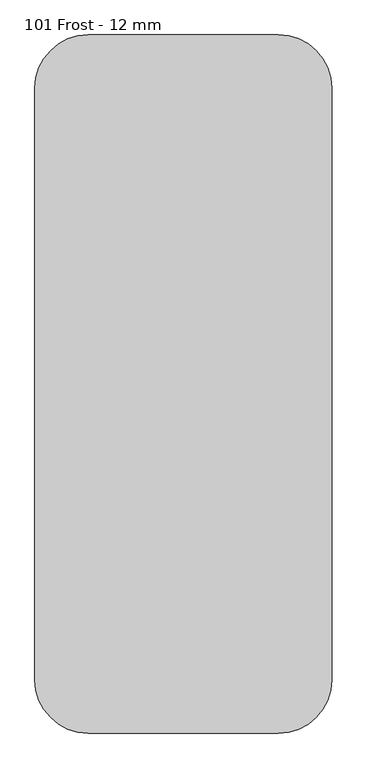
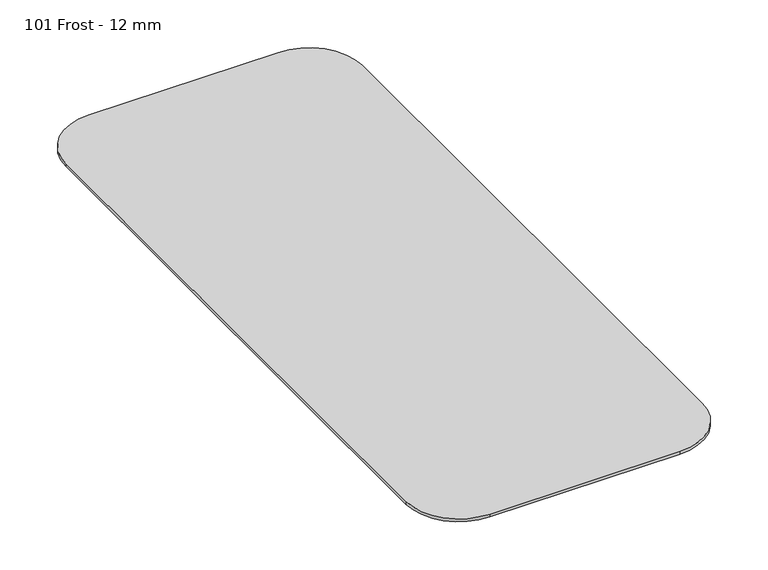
"""IFC4 building model written with IfcOpenShell, lengths in millimetres: proxy geometry, Wall-Panel-Kirei_USA-EchoScreen-Fizz_Screen : 101 Frost - 12 mm."""

from ifc_helpers import new_model, si_unit, point, frame_2d, origin, origin_with_axes, place, context, project, spatial, polyline, circle_curve, trimmed, segment, composite_curve, outline, extrude, source, transform, mapped, element, save


def proxy_101_frost_12_mm_981fdf22(model_context):
    return source(origin(), model_context, "Body", "SweptSolid", [
        extrude(outline(composite_curve([segment(polyline([(-400.05, 1371.6), (349.25, 1371.6)]), True, "CONTINUOUS"), segment(trimmed(circle_curve(frame_2d((349.25, 1162.05)), 209.55), [point((349.25, 1371.6))], [point((558.8, 1162.05))], False, "CARTESIAN"), True, "CONTINUOUS"), segment(polyline([(558.8, 1162.05), (558.8, -1162.05)]), True, "CONTINUOUS"), segment(trimmed(circle_curve(frame_2d((349.25, -1162.05)), 209.55), [point((558.8, -1162.05))], [point((349.25, -1371.6))], False, "CARTESIAN"), True, "CONTINUOUS"), segment(polyline([(349.25, -1371.6), (-400.05, -1371.6)]), True, "CONTINUOUS"), segment(trimmed(circle_curve(frame_2d((-400.05, -1162.05)), 209.55), [point((-400.05, -1371.6))], [point((-609.6, -1162.05))], False, "CARTESIAN"), True, "CONTINUOUS"), segment(polyline([(-609.6, -1162.05), (-609.6, 1162.05)]), True, "CONTINUOUS"), segment(trimmed(circle_curve(frame_2d((-400.05, 1162.05)), 209.55), [point((-609.6, 1162.05))], [point((-400.05, 1371.6))], False, "CARTESIAN"), True, "CONTINUOUS")], self_intersect=False)), origin_with_axes(), (0.0, 0.0, 1.0), 12.0054687),
    ])


if __name__ == "__main__":
    model = new_model("IFC4")
    model_context = context("Model", 3, world=origin())
    ifc_project = project(units=[si_unit("LENGTHUNIT", "METRE", prefix="MILLI")], contexts=[model_context])
    site = spatial("IfcSite", under=ifc_project)
    building = spatial("IfcBuilding", under=site)
    placement = place(None, origin())
    proxy_101_frost_12_mm_shape = proxy_101_frost_12_mm_981fdf22(model_context)
    element("IfcBuildingElementProxy", 1, Name="Wall-Panel-Kirei_USA-EchoScreen-Fizz_Screen : 101 Frost - 12 mm", ObjectType="Wall-Panel-Kirei_USA-EchoScreen-Fizz_Screen : 101 Frost - 12 mm", at=placement, inside=building, context=model_context, shape_type="MappedRepresentation", body=[
        mapped(proxy_101_frost_12_mm_shape, transform((0.0, 0.0, 0.0), x_axis=(1.0, 0.0, 0.0), y_axis=(0.0, 1.0, 0.0), z_axis=(0.0, 0.0, 1.0))),
    ])
    save(model, "model.ifc")
